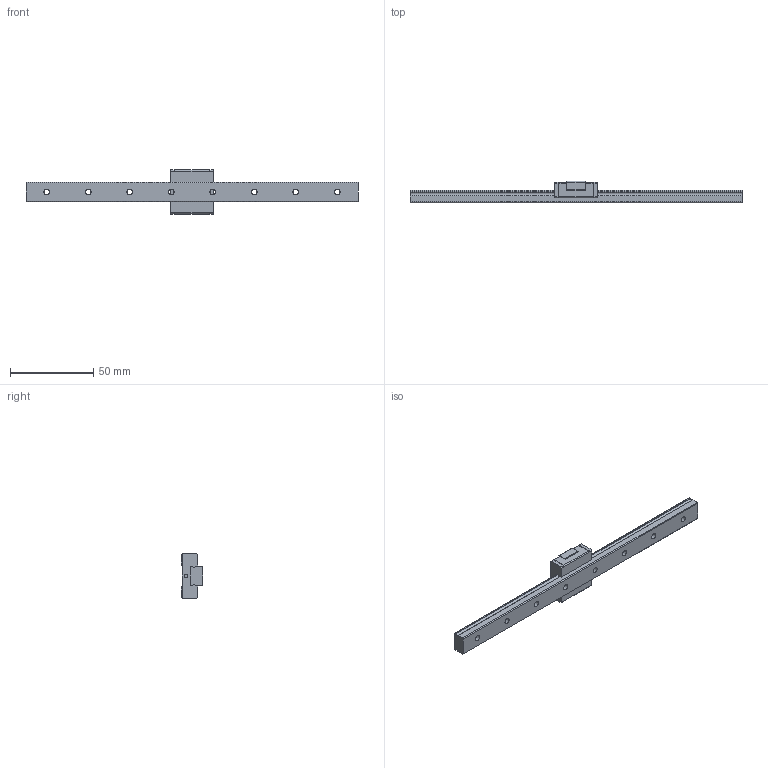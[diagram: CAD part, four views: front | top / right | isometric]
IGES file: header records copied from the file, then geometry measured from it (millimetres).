
Start section: Data from Parasolid IGES Translator 26.0.171, Copyright(c) 2006 Siemens PLM Software. All Rights Reserved.
Global section: file name: RSX12SMUU-200LM_G12-5_0_Without grease nipple_87-2_0_0_0_1.igs; native system: By Siemens PLM Incorporated; preprocessor: XPlus GENERIC/IGES 26.0.171; author: Noname; organization: Noname; date: 20240521.102530; units: millimetre
Bounding box: 200 x 13 x 27 mm (x, y, z)
Surface area: 11429.5 mm2 (no closed solid volume)
Topology: 0 solids, 0 shells, 126 faces, 650 edges, 612 vertices
Faces by surface type: extrusion 88, revolution 38
